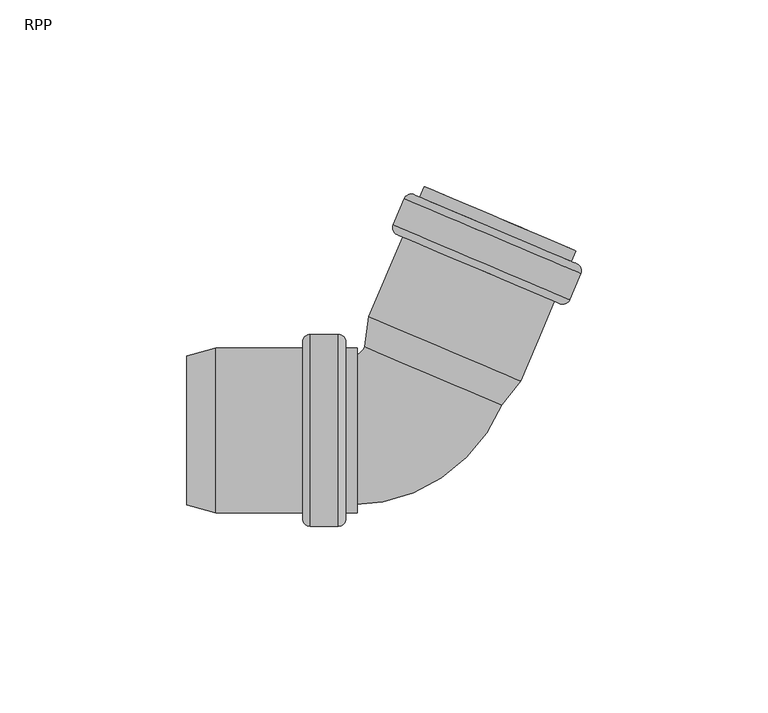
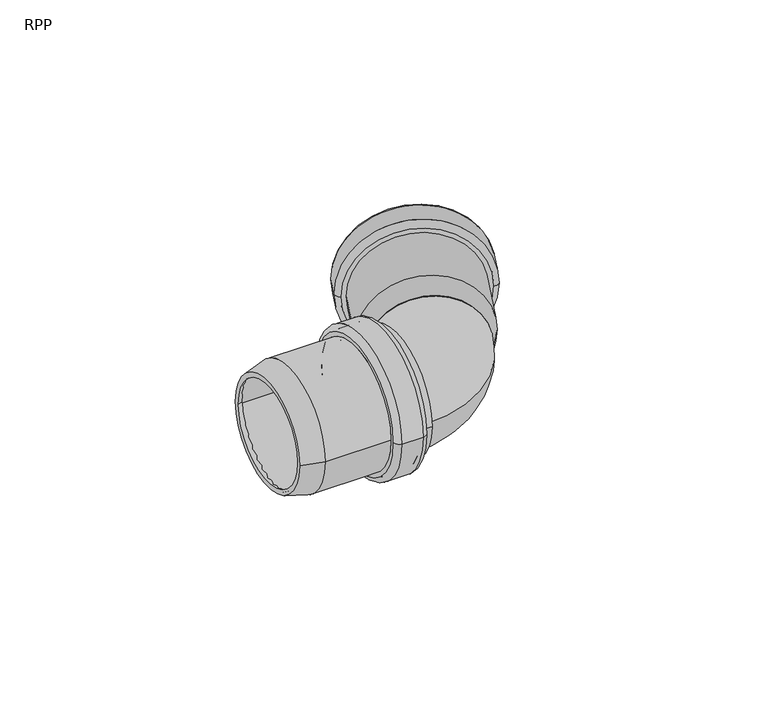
"""IFC4 building model written with IfcOpenShell, lengths in millimetres: pipe fitting geometry, RAUPIANO PLUS Bend : RPP."""

from ifc_helpers import new_model, si_unit, point, frame, origin, place, context, project, spatial, polyline, circle_curve, ellipse_curve, trimmed, source, transform, mapped, element, save
from ifc_brep_helpers import plane_surface, cylinder_surface, revolved_surface, advanced_brep


def rpp_54957289(model_context):
    return source(origin(), model_context, "Body", "AdvancedBrep", [
        advanced_brep(
        [(-26.9852535, -20.3, 0.0), (-26.9852535, 20.3, 0.0), (-51.8109723, 20.3, 0.0), (-51.8109723, -20.3, 0.0), (-26.4852535, -23.9, 0.0), (-26.4852535, 23.9, 0.0), (-26.9852535, 23.4, 0.0), (-26.9852535, -23.4, 0.0), (-19.4852535, -23.9, 0.0), (-19.4852535, 23.9, 0.0), (-18.9852535, -23.4, 0.0), (-18.9852535, 23.4, 0.0), (-14.0852535, -20.3, 0.0), (-14.0852535, 20.3, 0.0), (-18.9852535, 20.3, 0.0), (-18.9852535, -20.3, 0.0), (-17.1852535, -22.1, 0.0), (-17.1852535, 22.1, 0.0), (-14.0852535, 22.1, 0.0), (-14.0852535, -22.1, 0.0), (-19.1852535, -25.7, 0.0), (-19.1852535, 25.7, 0.0), (-17.1852535, 23.7, 0.0), (-17.1852535, -23.7, 0.0), (-26.7852535, -25.7, 0.0), (-26.7852535, 25.7, 0.0), (-28.7852535, -23.7, 0.0), (-28.7852535, 23.7, 0.0), (-52.0479468, -22.1, 0.0), (-52.0479468, 22.1, 0.0), (-28.7852535, 22.1, 0.0), (-28.7852535, -22.1, 0.0), (-59.8852535, -20.0, 0.0), (-59.8852535, 20.0, 0.0), (-59.8852535, 18.1365029, 0.0), (-59.8852535, -18.1365029, 0.0)],
        [
            (0, 1, circle_curve(frame((-26.9852535, 0.0, 0.0), z_axis=(1.0, 0.0, 0.0), x_axis=(0.0, 1.0, 0.0)), 20.3)),
            (1, 2),
            (2, 3, circle_curve(frame((-51.8109723, 0.0, 0.0), z_axis=(-1.0, 0.0, 0.0), x_axis=(0.0, 1.0, 0.0)), 20.3)),
            (3, 0),
            (4, 5, circle_curve(frame((-26.4852535, 0.0, 0.0), z_axis=(1.0, 0.0, 0.0), x_axis=(0.0, 1.0, 0.0)), 23.9)),
            (5, 6, circle_curve(frame((-26.4852535, 23.4, 0.0), z_axis=(0.0, 0.0, 1.0), x_axis=(0.0, -1.0, 0.0)), 0.5)),
            (6, 7, circle_curve(frame((-26.9852535, 0.0, 0.0), z_axis=(-1.0, 0.0, 0.0), x_axis=(0.0, 1.0, 0.0)), 23.4)),
            (7, 4, circle_curve(frame((-26.4852535, -23.4, 0.0), z_axis=(0.0, 0.0, 1.0), x_axis=(0.0, 1.0, 0.0)), 0.5)),
            (8, 9, circle_curve(frame((-19.4852535, 0.0, 0.0), z_axis=(1.0, 0.0, 0.0), x_axis=(0.0, 1.0, 0.0)), 23.9)),
            (9, 5),
            (4, 8),
            (10, 11, circle_curve(frame((-18.9852535, 0.0, 0.0), z_axis=(1.0, 0.0, 0.0), x_axis=(0.0, 1.0, 0.0)), 23.4)),
            (11, 9, circle_curve(frame((-19.4852535, 23.4, 0.0), z_axis=(0.0, 0.0, 1.0), x_axis=(0.0, -1.0, 0.0)), 0.5)),
            (8, 10, circle_curve(frame((-19.4852535, -23.4, 0.0), z_axis=(0.0, 0.0, 1.0), x_axis=(0.0, 1.0, 0.0)), 0.5)),
            (12, 13, circle_curve(frame((-14.0852535, 0.0, 0.0), z_axis=(1.0, 0.0, 0.0), x_axis=(0.0, 1.0, 0.0)), 20.3)),
            (13, 14),
            (14, 15, circle_curve(frame((-18.9852535, 0.0, 0.0), z_axis=(-1.0, 0.0, 0.0), x_axis=(0.0, 1.0, 0.0)), 20.3)),
            (15, 12),
            (16, 17, circle_curve(frame((-17.1852535, 0.0, 0.0), z_axis=(1.0, 0.0, 0.0), x_axis=(0.0, 1.0, 0.0)), 22.1)),
            (17, 18),
            (18, 19, circle_curve(frame((-14.0852535, 0.0, 0.0), z_axis=(-1.0, 0.0, 0.0), x_axis=(0.0, 1.0, 0.0)), 22.1)),
            (19, 16),
            (20, 21, circle_curve(frame((-19.1852535, 0.0, 0.0), z_axis=(1.0, 0.0, 0.0), x_axis=(0.0, 1.0, 0.0)), 25.7)),
            (21, 22, circle_curve(frame((-19.1852535, 23.7, 0.0), z_axis=(0.0, 0.0, -1.0), x_axis=(0.0, -1.0, 0.0)), 2.0)),
            (22, 23, circle_curve(frame((-17.1852535, 0.0, 0.0), z_axis=(-1.0, 0.0, 0.0), x_axis=(0.0, 1.0, 0.0)), 23.7)),
            (23, 20, circle_curve(frame((-19.1852535, -23.7, 0.0), z_axis=(0.0, 0.0, -1.0), x_axis=(0.0, 1.0, 0.0)), 2.0)),
            (24, 25, circle_curve(frame((-26.7852535, 0.0, 0.0), z_axis=(1.0, 0.0, 0.0), x_axis=(0.0, 1.0, 0.0)), 25.7)),
            (25, 21),
            (20, 24),
            (26, 27, circle_curve(frame((-28.7852535, 0.0, 0.0), z_axis=(1.0, 0.0, 0.0), x_axis=(0.0, 1.0, 0.0)), 23.7)),
            (27, 25, circle_curve(frame((-26.7852535, 23.7, 0.0), z_axis=(0.0, 0.0, -1.0), x_axis=(0.0, -1.0, 0.0)), 2.0)),
            (24, 26, circle_curve(frame((-26.7852535, -23.7, 0.0), z_axis=(0.0, 0.0, -1.0), x_axis=(0.0, 1.0, 0.0)), 2.0)),
            (28, 29, circle_curve(frame((-52.0479468, 0.0, 0.0), z_axis=(1.0, 0.0, 0.0), x_axis=(0.0, 1.0, 0.0)), 22.1)),
            (29, 30),
            (30, 31, circle_curve(frame((-28.7852535, 0.0, 0.0), z_axis=(-1.0, 0.0, 0.0), x_axis=(0.0, 1.0, 0.0)), 22.1)),
            (31, 28),
            (32, 33, circle_curve(frame((-59.8852535, 0.0, 0.0), z_axis=(1.0, 0.0, 0.0), x_axis=(0.0, 1.0, 0.0)), 20.0)),
            (33, 29),
            (28, 32),
            (2, 34),
            (34, 35, circle_curve(frame((-59.8852535, 0.0, 0.0), z_axis=(-1.0, 0.0, 0.0), x_axis=(0.0, 1.0, 0.0)), 18.1365029)),
            (35, 3),
            (1, 0, circle_curve(frame((-26.9852535, 0.0, 0.0), z_axis=(1.0, 0.0, 0.0), x_axis=(0.0, -1.0, 0.0)), 20.3)),
            (3, 2, circle_curve(frame((-51.8109723, 0.0, 0.0), z_axis=(-1.0, 0.0, 0.0), x_axis=(0.0, -1.0, 0.0)), 20.3)),
            (6, 7, circle_curve(frame((-26.9852535, 0.0, 0.0), z_axis=(1.0, 0.0, 0.0), x_axis=(0.0, -1.0, 0.0)), 23.4)),
            (5, 4, circle_curve(frame((-26.4852535, 0.0, 0.0), z_axis=(1.0, 0.0, 0.0), x_axis=(0.0, -1.0, 0.0)), 23.9)),
            (9, 8, circle_curve(frame((-19.4852535, 0.0, 0.0), z_axis=(1.0, 0.0, 0.0), x_axis=(0.0, -1.0, 0.0)), 23.9)),
            (11, 10, circle_curve(frame((-18.9852535, 0.0, 0.0), z_axis=(1.0, 0.0, 0.0), x_axis=(0.0, -1.0, 0.0)), 23.4)),
            (14, 15, circle_curve(frame((-18.9852535, 0.0, 0.0), z_axis=(1.0, 0.0, 0.0), x_axis=(0.0, -1.0, 0.0)), 20.3)),
            (13, 12, circle_curve(frame((-14.0852535, 0.0, 0.0), z_axis=(1.0, 0.0, 0.0), x_axis=(0.0, -1.0, 0.0)), 20.3)),
            (18, 19, circle_curve(frame((-14.0852535, 0.0, 0.0), z_axis=(1.0, 0.0, 0.0), x_axis=(0.0, -1.0, 0.0)), 22.1)),
            (17, 16, circle_curve(frame((-17.1852535, 0.0, 0.0), z_axis=(1.0, 0.0, 0.0), x_axis=(0.0, -1.0, 0.0)), 22.1)),
            (22, 23, circle_curve(frame((-17.1852535, 0.0, 0.0), z_axis=(1.0, 0.0, 0.0), x_axis=(0.0, -1.0, 0.0)), 23.7)),
            (21, 20, circle_curve(frame((-19.1852535, 0.0, 0.0), z_axis=(1.0, 0.0, 0.0), x_axis=(0.0, -1.0, 0.0)), 25.7)),
            (25, 24, circle_curve(frame((-26.7852535, 0.0, 0.0), z_axis=(1.0, 0.0, 0.0), x_axis=(0.0, -1.0, 0.0)), 25.7)),
            (27, 26, circle_curve(frame((-28.7852535, 0.0, 0.0), z_axis=(1.0, 0.0, 0.0), x_axis=(0.0, -1.0, 0.0)), 23.7)),
            (30, 31, circle_curve(frame((-28.7852535, 0.0, 0.0), z_axis=(1.0, 0.0, 0.0), x_axis=(0.0, -1.0, 0.0)), 22.1)),
            (29, 28, circle_curve(frame((-52.0479468, 0.0, 0.0), z_axis=(1.0, 0.0, 0.0), x_axis=(0.0, -1.0, 0.0)), 22.1)),
            (33, 32, circle_curve(frame((-59.8852535, 0.0, 0.0), z_axis=(1.0, 0.0, 0.0), x_axis=(0.0, -1.0, 0.0)), 20.0)),
            (34, 35, circle_curve(frame((-59.8852535, 0.0, 0.0), z_axis=(1.0, 0.0, 0.0), x_axis=(0.0, -1.0, 0.0)), 18.1365029)),
        ],
        [
            revolved_surface(polyline([(-51.8109723, 20.3, 0.0), (-26.9852535, 20.3, 0.0)]), (-59.8852535, 0.0, 0.0), (-1.0, 0.0, 0.0)),
            revolved_surface(trimmed(ellipse_curve(frame((-26.4852535, 23.4, 0.0), z_axis=(0.0, 0.0, -1.0), x_axis=(0.0, -1.0, 0.0)), 0.5, 0.5), [point((-26.9852535, 23.4, 0.0))], [point((-26.4852535, 23.9, 0.0))], True, "CARTESIAN"), (-59.8852535, 0.0, 0.0), (-1.0, 0.0, 0.0)),
            revolved_surface(polyline([(-26.4852535, 23.9, 0.0), (-19.4852535, 23.9, 0.0)]), (-59.8852535, 0.0, 0.0), (-1.0, 0.0, 0.0)),
            revolved_surface(trimmed(ellipse_curve(frame((-19.4852535, 23.4, 0.0), z_axis=(0.0, 0.0, -1.0), x_axis=(0.0, -1.0, 0.0)), 0.5, 0.5), [point((-19.4852535, 23.9, 0.0))], [point((-18.9852535, 23.4, 0.0))], True, "CARTESIAN"), (-59.8852535, 0.0, 0.0), (-1.0, 0.0, 0.0)),
            revolved_surface(polyline([(-18.9852535, 20.3, 0.0), (-14.0852535, 20.3, 0.0)]), (-59.8852535, 0.0, 0.0), (-1.0, 0.0, 0.0)),
            cylinder_surface(frame((-59.8852535, 0.0, 0.0), z_axis=(-1.0, 0.0, 0.0), x_axis=(0.0, 1.0, 0.0)), 22.1),
            revolved_surface(trimmed(ellipse_curve(frame((-19.1852535, 23.7, 0.0), z_axis=(0.0, 0.0, 1.0), x_axis=(0.0, -1.0, 0.0)), 2.0, 2.0), [point((-17.1852535, 23.7, 0.0))], [point((-19.1852535, 25.7, 0.0))], True, "CARTESIAN"), (-59.8852535, 0.0, 0.0), (-1.0, 0.0, 0.0)),
            cylinder_surface(frame((-59.8852535, 0.0, 0.0), z_axis=(-1.0, 0.0, 0.0), x_axis=(0.0, 1.0, 0.0)), 25.7),
            revolved_surface(trimmed(ellipse_curve(frame((-26.7852535, 23.7, 0.0), z_axis=(0.0, 0.0, 1.0), x_axis=(0.0, -1.0, 0.0)), 2.0, 2.0), [point((-26.7852535, 25.7, 0.0))], [point((-28.7852535, 23.7, 0.0))], True, "CARTESIAN"), (-59.8852535, 0.0, 0.0), (-1.0, 0.0, 0.0)),
            revolved_surface(polyline([(-52.0479468, 22.1, 0.0), (-59.8852535, 20.0, 0.0)]), (-59.8852535, 0.0, 0.0), (-1.0, 0.0, 0.0)),
            revolved_surface(polyline([(-59.8852535, 18.1365029, 0.0), (-51.8109723, 20.3, 0.0)]), (-59.8852535, 0.0, 0.0), (-1.0, 0.0, 0.0)),
            revolved_surface(polyline([(-51.8109723, -20.3, 0.0), (-26.9852535, -20.3, 0.0)]), (-59.8852535, 0.0, 0.0), (-1.0, 0.0, 0.0)),
            plane_surface(frame((-26.9852535, 0.0, 0.0), z_axis=(1.0, 0.0, 0.0), x_axis=(0.0, -1.0, 0.0))),
            revolved_surface(trimmed(ellipse_curve(frame((-26.4852535, -23.4, 0.0), z_axis=(0.0, 0.0, 1.0), x_axis=(0.0, 1.0, 0.0)), 0.5, 0.5), [point((-26.9852535, -23.4, 0.0))], [point((-26.4852535, -23.9, 0.0))], True, "CARTESIAN"), (-59.8852535, 0.0, 0.0), (-1.0, 0.0, 0.0)),
            revolved_surface(polyline([(-26.4852535, -23.9, 0.0), (-19.4852535, -23.9, 0.0)]), (-59.8852535, 0.0, 0.0), (-1.0, 0.0, 0.0)),
            revolved_surface(trimmed(ellipse_curve(frame((-19.4852535, -23.4, 0.0), z_axis=(0.0, 0.0, 1.0), x_axis=(0.0, 1.0, 0.0)), 0.5, 0.5), [point((-19.4852535, -23.9, 0.0))], [point((-18.9852535, -23.4, 0.0))], True, "CARTESIAN"), (-59.8852535, 0.0, 0.0), (-1.0, 0.0, 0.0)),
            plane_surface(frame((-18.9852535, 0.0, 0.0), z_axis=(-1.0, 0.0, 0.0), x_axis=(0.0, -1.0, 0.0))),
            revolved_surface(polyline([(-18.9852535, -20.3, 0.0), (-14.0852535, -20.3, 0.0)]), (-59.8852535, 0.0, 0.0), (-1.0, 0.0, 0.0)),
            plane_surface(frame((-14.0852535, 0.0, 0.0), z_axis=(1.0, 0.0, 0.0), x_axis=(0.0, -1.0, 0.0))),
            cylinder_surface(frame((-59.8852535, 0.0, 0.0), z_axis=(-1.0, 0.0, 0.0), x_axis=(0.0, -1.0, 0.0)), 22.1),
            plane_surface(frame((-17.1852535, 0.0, 0.0), z_axis=(1.0, 0.0, 0.0), x_axis=(0.0, -1.0, 0.0))),
            revolved_surface(trimmed(ellipse_curve(frame((-19.1852535, -23.7, 0.0), z_axis=(0.0, 0.0, -1.0), x_axis=(0.0, 1.0, 0.0)), 2.0, 2.0), [point((-17.1852535, -23.7, 0.0))], [point((-19.1852535, -25.7, 0.0))], True, "CARTESIAN"), (-59.8852535, 0.0, 0.0), (-1.0, 0.0, 0.0)),
            cylinder_surface(frame((-59.8852535, 0.0, 0.0), z_axis=(-1.0, 0.0, 0.0), x_axis=(0.0, -1.0, 0.0)), 25.7),
            revolved_surface(trimmed(ellipse_curve(frame((-26.7852535, -23.7, 0.0), z_axis=(0.0, 0.0, -1.0), x_axis=(0.0, 1.0, 0.0)), 2.0, 2.0), [point((-26.7852535, -25.7, 0.0))], [point((-28.7852535, -23.7, 0.0))], True, "CARTESIAN"), (-59.8852535, 0.0, 0.0), (-1.0, 0.0, 0.0)),
            plane_surface(frame((-28.7852535, 0.0, 0.0), z_axis=(-1.0, 0.0, 0.0), x_axis=(0.0, -1.0, 0.0))),
            revolved_surface(polyline([(-52.0479468, -22.1, 0.0), (-59.8852535, -20.0, 0.0)]), (-59.8852535, 0.0, 0.0), (-1.0, 0.0, 0.0)),
            plane_surface(frame((-59.8852535, 0.0, 0.0), z_axis=(-1.0, 0.0, 0.0), x_axis=(0.0, -1.0, 0.0))),
            revolved_surface(polyline([(-59.8852535, -18.1365029, 0.0), (-51.8109723, -20.3, 0.0)]), (-59.8852535, 0.0, 0.0), (-1.0, 0.0, 0.0)),
        ],
        [
            (0, [[1, 2, 3, 4]]),
            (1, [[5, 6, 7, 8]]),
            (2, [[9, 10, -5, 11]]),
            (3, [[12, 13, -9, 14]]),
            (4, [[15, 16, 17, 18]]),
            (5, [[19, 20, 21, 22]]),
            (6, [[23, 24, 25, 26]]),
            (7, [[27, 28, -23, 29]]),
            (8, [[30, 31, -27, 32]]),
            (5, [[33, 34, 35, 36]]),
            (9, [[37, 38, -33, 39]]),
            (10, [[-3, 40, 41, 42]]),
            (11, [[43, -4, 44, -2]]),
            (12, [[45, -7], [-43, -1]]),
            (13, [[46, -8, -45, -6]]),
            (14, [[47, -11, -46, -10]]),
            (15, [[48, -14, -47, -13]]),
            (16, [[-48, -12], [49, -17]]),
            (17, [[50, -18, -49, -16]]),
            (18, [[51, -21], [-50, -15]]),
            (19, [[52, -22, -51, -20]]),
            (20, [[53, -25], [-52, -19]]),
            (21, [[54, -26, -53, -24]]),
            (22, [[55, -29, -54, -28]]),
            (23, [[56, -32, -55, -31]]),
            (24, [[-56, -30], [57, -35]]),
            (19, [[58, -36, -57, -34]]),
            (25, [[59, -39, -58, -38]]),
            (26, [[-59, -37], [60, -41]]),
            (27, [[-44, -42, -60, -40]]),
        ],
    ),
        advanced_brep(
        [(22.9016019, 7.5359567, 0.0), (-10.4878759, 21.7089492, 0.0), (-9.3245125, 29.9867098, 0.0), (28.0479845, 14.123026, 0.0), (29.6123, 13.2015738, 0.0), (-11.0740146, 30.4718897, 0.0), (-12.2032341, 22.4370755, 0.0), (24.6169601, 6.8078303, 0.0), (38.7017584, 34.6149959, 0.0), (-1.9845562, 51.8853118, 0.0), (45.7665947, 42.0452104, 0.0), (-1.5473548, 62.1287905, 0.0), (-4.5169114, 55.1329536, 0.0), (42.7970381, 35.0493736, 0.0), (44.445506, 48.1464173, 0.0), (3.7591914, 65.4167331, 0.0), (2.5479249, 62.5631681, 0.0), (43.2342395, 45.2928522, 0.0), (40.8740147, 44.3392595, 0.0), (3.5015176, 60.2029433, 0.0), (5.4161002, 64.7134171, 0.0), (42.7885972, 48.8497333, 0.0), (41.2573487, 36.0288411, 0.0), (-2.7427833, 54.705789, 0.0), (-0.0076654, 61.149323, 0.0), (43.9924666, 42.472375, 0.0), (0.3756686, 52.8389045, 0.0), (37.7481657, 36.9752207, 0.0), (-3.4573639, 52.5104816, 0.0), (40.1745661, 33.9898261, 0.0), (44.7070472, 44.6676824, 0.0), (1.0751172, 63.1883379, 0.0), (0.6479526, 61.4142098, 0.0), (43.7275797, 43.127993, 0.0), (40.6017307, 35.7639542, 0.0), (-2.4778964, 54.050171, 0.0)],
        [
            (0, 1, circle_curve(frame((6.206863, 14.6224529, 0.0), z_axis=(-0.39073112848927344, -0.9205048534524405, 0.0), x_axis=(-0.9205048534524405, 0.39073112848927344, 0.0)), 18.1365029)),
            (1, 2),
            (2, 3, circle_curve(frame((9.361736, 22.0548679, 0.0), z_axis=(0.39073112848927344, 0.9205048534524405, 0.0), x_axis=(-0.9205048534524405, 0.39073112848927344, 0.0)), 20.3)),
            (3, 0),
            (4, 5, circle_curve(frame((9.2691427, 21.8367318, 0.0), z_axis=(-0.39073112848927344, -0.9205048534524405, 0.0), x_axis=(-0.9205048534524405, 0.39073112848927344, 0.0)), 22.1)),
            (5, 6),
            (6, 7, circle_curve(frame((6.206863, 14.6224529, 0.0), z_axis=(0.39073112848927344, 0.9205048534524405, 0.0), x_axis=(-0.9205048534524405, 0.39073112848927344, 0.0)), 20.0)),
            (7, 4),
            (8, 9, circle_curve(frame((18.3586011, 43.2501539, 0.0), z_axis=(-0.39073112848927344, -0.9205048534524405, 0.0), x_axis=(-0.9205048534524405, 0.39073112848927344, 0.0)), 22.1)),
            (9, 5),
            (4, 8),
            (10, 11, circle_curve(frame((22.1096199, 52.0870005, 0.0), z_axis=(-0.39073112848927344, -0.9205048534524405, 0.0), x_axis=(-0.9205048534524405, 0.39073112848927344, 0.0)), 25.7)),
            (11, 12),
            (12, 13, circle_curve(frame((19.1400634, 45.0911636, 0.0), z_axis=(0.39073112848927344, 0.9205048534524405, 0.0), x_axis=(-0.9205048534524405, 0.39073112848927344, 0.0)), 25.7)),
            (13, 10),
            (14, 15, circle_curve(frame((24.1023487, 56.7815752, 0.0), z_axis=(-0.39073112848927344, -0.9205048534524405, 0.0), x_axis=(-0.9205048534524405, 0.39073112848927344, 0.0)), 22.1)),
            (15, 16),
            (16, 17, circle_curve(frame((22.8910822, 53.9280102, 0.0), z_axis=(0.39073112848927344, 0.9205048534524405, 0.0), x_axis=(-0.9205048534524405, 0.39073112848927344, 0.0)), 22.1)),
            (17, 14),
            (18, 19, circle_curve(frame((22.1877662, 52.2711014, 0.0), z_axis=(-0.39073112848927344, -0.9205048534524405, 0.0), x_axis=(-0.9205048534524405, 0.39073112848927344, 0.0)), 20.3)),
            (19, 20),
            (20, 21, circle_curve(frame((24.1023487, 56.7815752, 0.0), z_axis=(0.39073112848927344, 0.9205048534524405, 0.0), x_axis=(-0.9205048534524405, 0.39073112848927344, 0.0)), 20.3)),
            (21, 18),
            (22, 23, circle_curve(frame((19.2572827, 45.367315, 0.0), z_axis=(-0.39073112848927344, -0.9205048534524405, 0.0), x_axis=(-0.9205048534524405, 0.39073112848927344, 0.0)), 23.9)),
            (23, 24),
            (24, 25, circle_curve(frame((21.9924006, 51.810849, 0.0), z_axis=(0.39073112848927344, 0.9205048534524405, 0.0), x_axis=(-0.9205048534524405, 0.39073112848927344, 0.0)), 23.9)),
            (25, 22),
            (2, 26),
            (26, 27, circle_curve(frame((19.0619171, 44.9070626, 0.0), z_axis=(0.39073112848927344, 0.9205048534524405, 0.0), x_axis=(-0.9205048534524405, 0.39073112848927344, 0.0)), 20.3)),
            (27, 3),
            (1, 0, circle_curve(frame((6.206863, 14.6224529, 0.0), z_axis=(-0.39073112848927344, -0.9205048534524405, 0.0), x_axis=(0.9205048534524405, -0.39073112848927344, 0.0)), 18.1365029)),
            (3, 2, circle_curve(frame((9.361736, 22.0548679, 0.0), z_axis=(0.39073112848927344, 0.9205048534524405, 0.0), x_axis=(0.9205048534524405, -0.39073112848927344, 0.0)), 20.3)),
            (6, 7, circle_curve(frame((6.206863, 14.6224529, 0.0), z_axis=(-0.39073112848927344, -0.9205048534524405, 0.0), x_axis=(0.9205048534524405, -0.39073112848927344, 0.0)), 20.0)),
            (5, 4, circle_curve(frame((9.2691427, 21.8367318, 0.0), z_axis=(-0.39073112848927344, -0.9205048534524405, 0.0), x_axis=(0.9205048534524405, -0.39073112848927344, 0.0)), 22.1)),
            (9, 8, circle_curve(frame((18.3586011, 43.2501539, 0.0), z_axis=(-0.39073112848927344, -0.9205048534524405, 0.0), x_axis=(0.9205048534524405, -0.39073112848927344, 0.0)), 22.1)),
            (28, 29, circle_curve(frame((18.3586011, 43.2501539, 0.0), z_axis=(-0.39073112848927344, -0.9205048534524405, 0.0), x_axis=(0.9205048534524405, -0.39073112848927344, 0.0)), 23.7)),
            (29, 28, circle_curve(frame((18.3586011, 43.2501539, 0.0), z_axis=(-0.39073112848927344, -0.9205048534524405, 0.0), x_axis=(-0.9205048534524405, 0.39073112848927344, 0.0)), 23.7)),
            (11, 10, circle_curve(frame((22.1096199, 52.0870005, 0.0), z_axis=(-0.39073112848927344, -0.9205048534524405, 0.0), x_axis=(0.9205048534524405, -0.39073112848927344, 0.0)), 25.7)),
            (13, 12, circle_curve(frame((19.1400634, 45.0911636, 0.0), z_axis=(0.39073112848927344, 0.9205048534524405, 0.0), x_axis=(0.9205048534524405, -0.39073112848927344, 0.0)), 25.7)),
            (30, 31, circle_curve(frame((22.8910822, 53.9280102, 0.0), z_axis=(0.39073112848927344, 0.9205048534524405, 0.0), x_axis=(0.9205048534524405, -0.39073112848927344, 0.0)), 23.7)),
            (31, 30, circle_curve(frame((22.8910822, 53.9280102, 0.0), z_axis=(0.39073112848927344, 0.9205048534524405, 0.0), x_axis=(-0.9205048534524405, 0.39073112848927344, 0.0)), 23.7)),
            (16, 17, circle_curve(frame((22.8910822, 53.9280102, 0.0), z_axis=(-0.39073112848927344, -0.9205048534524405, 0.0), x_axis=(0.9205048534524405, -0.39073112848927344, 0.0)), 22.1)),
            (15, 14, circle_curve(frame((24.1023487, 56.7815752, 0.0), z_axis=(-0.39073112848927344, -0.9205048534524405, 0.0), x_axis=(0.9205048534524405, -0.39073112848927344, 0.0)), 22.1)),
            (20, 21, circle_curve(frame((24.1023487, 56.7815752, 0.0), z_axis=(-0.39073112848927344, -0.9205048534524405, 0.0), x_axis=(0.9205048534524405, -0.39073112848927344, 0.0)), 20.3)),
            (19, 18, circle_curve(frame((22.1877662, 52.2711014, 0.0), z_axis=(-0.39073112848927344, -0.9205048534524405, 0.0), x_axis=(0.9205048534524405, -0.39073112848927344, 0.0)), 20.3)),
            (32, 33, circle_curve(frame((22.1877662, 52.2711014, 0.0), z_axis=(-0.39073112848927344, -0.9205048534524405, 0.0), x_axis=(0.9205048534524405, -0.39073112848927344, 0.0)), 23.4)),
            (33, 32, circle_curve(frame((22.1877662, 52.2711014, 0.0), z_axis=(-0.39073112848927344, -0.9205048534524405, 0.0), x_axis=(-0.9205048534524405, 0.39073112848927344, 0.0)), 23.4)),
            (23, 22, circle_curve(frame((19.2572827, 45.367315, 0.0), z_axis=(-0.39073112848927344, -0.9205048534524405, 0.0), x_axis=(0.9205048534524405, -0.39073112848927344, 0.0)), 23.9)),
            (25, 24, circle_curve(frame((21.9924006, 51.810849, 0.0), z_axis=(0.39073112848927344, 0.9205048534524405, 0.0), x_axis=(0.9205048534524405, -0.39073112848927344, 0.0)), 23.9)),
            (34, 35, circle_curve(frame((19.0619171, 44.9070626, 0.0), z_axis=(0.39073112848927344, 0.9205048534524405, 0.0), x_axis=(0.9205048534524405, -0.39073112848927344, 0.0)), 23.4)),
            (35, 34, circle_curve(frame((19.0619171, 44.9070626, 0.0), z_axis=(0.39073112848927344, 0.9205048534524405, 0.0), x_axis=(-0.9205048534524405, 0.39073112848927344, 0.0)), 23.4)),
            (26, 27, circle_curve(frame((19.0619171, 44.9070626, 0.0), z_axis=(-0.39073112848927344, -0.9205048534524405, 0.0), x_axis=(0.9205048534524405, -0.39073112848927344, 0.0)), 20.3)),
            (12, 28, circle_curve(frame((-2.6759017, 54.3514913, 0.0), z_axis=(0.0, 0.0, 1.0), x_axis=(0.9205048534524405, -0.39073112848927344, 0.0)), 2.0)),
            (29, 13, circle_curve(frame((40.9560284, 35.8308358, 0.0), z_axis=(0.0, 0.0, 1.0), x_axis=(-0.9205048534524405, 0.39073112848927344, 0.0)), 2.0)),
            (31, 11, circle_curve(frame((0.2936549, 61.3473282, 0.0), z_axis=(0.0, 0.0, 1.0), x_axis=(0.9205048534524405, -0.39073112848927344, 0.0)), 2.0)),
            (10, 30, circle_curve(frame((43.925585, 42.8266727, 0.0), z_axis=(0.0, 0.0, 1.0), x_axis=(-0.9205048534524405, 0.39073112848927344, 0.0)), 2.0)),
            (24, 32, circle_curve(frame((0.452587, 60.9539574, 0.0), z_axis=(0.0, 0.0, -1.0), x_axis=(0.9205048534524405, -0.39073112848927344, 0.0)), 0.5)),
            (33, 25, circle_curve(frame((43.5322142, 42.6677406, 0.0), z_axis=(0.0, 0.0, -1.0), x_axis=(-0.9205048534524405, 0.39073112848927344, 0.0)), 0.5)),
            (35, 23, circle_curve(frame((-2.2825309, 54.5104234, 0.0), z_axis=(0.0, 0.0, -1.0), x_axis=(0.9205048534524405, -0.39073112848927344, 0.0)), 0.5)),
            (22, 34, circle_curve(frame((40.7970963, 36.2242066, 0.0), z_axis=(0.0, 0.0, -1.0), x_axis=(-0.9205048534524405, 0.39073112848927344, 0.0)), 0.5)),
        ],
        [
            revolved_surface(polyline([(-9.3245125, 29.9867098, 0.0), (-10.4878759, 21.7089492, 0.0)]), (6.206863, 14.6224529, 0.0), (0.39073112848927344, 0.9205048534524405, 0.0)),
            revolved_surface(polyline([(-12.2032341, 22.4370755, 0.0), (-11.0740146, 30.4718897, 0.0)]), (6.206863, 14.6224529, 0.0), (0.39073112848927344, 0.9205048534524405, 0.0)),
            cylinder_surface(frame((6.206863, 14.6224529, 0.0), z_axis=(0.39073112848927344, 0.9205048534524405, 0.0), x_axis=(-0.9205048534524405, 0.39073112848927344, 0.0)), 22.1),
            cylinder_surface(frame((6.206863, 14.6224529, 0.0), z_axis=(0.39073112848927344, 0.9205048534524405, 0.0), x_axis=(-0.9205048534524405, 0.39073112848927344, 0.0)), 25.7),
            revolved_surface(polyline([(5.416100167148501, 64.71341711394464, 0.0), (3.5015176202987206, 60.202943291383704, 0.0)]), (6.206863, 14.6224529, 0.0), (0.39073112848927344, 0.9205048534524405, 0.0)),
            revolved_surface(polyline([(-0.007665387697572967, 61.14932299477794, 0.0), (-2.742783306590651, 54.70578897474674, 0.0)]), (6.206863, 14.6224529, 0.0), (0.39073112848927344, 0.9205048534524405, 0.0)),
            revolved_surface(polyline([(0.37566862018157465, 52.8389045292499, 0.0), (-9.32451253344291, 29.986709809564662, 0.0)]), (6.206863, 14.6224529, 0.0), (0.39073112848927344, 0.9205048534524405, 0.0)),
            revolved_surface(polyline([(28.0479845, 14.123026, 0.0), (22.9016019, 7.5359567, 0.0)]), (6.206863, 14.6224529, 0.0), (0.39073112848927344, 0.9205048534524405, 0.0)),
            plane_surface(frame((6.206863, 14.6224529, 0.0), z_axis=(-0.39073112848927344, -0.9205048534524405, 0.0), x_axis=(0.9205048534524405, -0.39073112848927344, 0.0))),
            revolved_surface(polyline([(24.6169601, 6.8078303, 0.0), (29.6123, 13.2015738, 0.0)]), (6.206863, 14.6224529, 0.0), (0.39073112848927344, 0.9205048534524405, 0.0)),
            cylinder_surface(frame((6.206863, 14.6224529, 0.0), z_axis=(0.39073112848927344, 0.9205048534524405, 0.0), x_axis=(0.9205048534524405, -0.39073112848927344, 0.0)), 22.1),
            plane_surface(frame((18.3586011, 43.2501539, 0.0), z_axis=(-0.39073112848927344, -0.9205048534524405, 0.0), x_axis=(0.9205048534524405, -0.39073112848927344, 0.0))),
            cylinder_surface(frame((6.206863, 14.6224529, 0.0), z_axis=(0.39073112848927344, 0.9205048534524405, 0.0), x_axis=(0.9205048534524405, -0.39073112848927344, 0.0)), 25.7),
            plane_surface(frame((22.8910822, 53.9280102, 0.0), z_axis=(0.39073112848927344, 0.9205048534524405, 0.0), x_axis=(0.9205048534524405, -0.39073112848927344, 0.0))),
            plane_surface(frame((24.1023487, 56.7815752, 0.0), z_axis=(0.39073112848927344, 0.9205048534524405, 0.0), x_axis=(0.9205048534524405, -0.39073112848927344, 0.0))),
            revolved_surface(polyline([(42.78859721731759, 48.84973329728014, 0.0), (40.87401467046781, 44.3392594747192, 0.0)]), (6.206863, 14.6224529, 0.0), (0.39073112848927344, 0.9205048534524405, 0.0)),
            plane_surface(frame((22.1877662, 52.2711014, 0.0), z_axis=(-0.39073112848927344, -0.9205048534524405, 0.0), x_axis=(0.9205048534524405, -0.39073112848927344, 0.0))),
            revolved_surface(polyline([(43.99246660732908, 42.47237505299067, 0.0), (41.257348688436, 36.02884103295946, 0.0)]), (6.206863, 14.6224529, 0.0), (0.39073112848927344, 0.9205048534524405, 0.0)),
            plane_surface(frame((19.0619171, 44.9070626, 0.0), z_axis=(0.39073112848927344, 0.9205048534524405, 0.0), x_axis=(0.9205048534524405, -0.39073112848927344, 0.0))),
            revolved_surface(polyline([(37.74816567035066, 36.975220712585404, 0.0), (28.047984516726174, 14.12302599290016, 0.0)]), (6.206863, 14.6224529, 0.0), (0.39073112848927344, 0.9205048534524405, 0.0)),
            revolved_surface(trimmed(ellipse_curve(frame((-2.6759017, 54.3514913, 0.0), z_axis=(0.0, 0.0, -1.0), x_axis=(0.9205048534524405, -0.39073112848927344, 0.0)), 2.0, 2.0), [point((-3.4573639, 52.5104816, 0.0))], [point((-4.5169114, 55.1329536, 0.0))], True, "CARTESIAN"), (6.206863, 14.6224529, 0.0), (0.39073112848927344, 0.9205048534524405, 0.0)),
            revolved_surface(trimmed(ellipse_curve(frame((0.2936549, 61.3473282, 0.0), z_axis=(0.0, 0.0, -1.0), x_axis=(0.9205048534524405, -0.39073112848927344, 0.0)), 2.0, 2.0), [point((-1.5473548, 62.1287905, 0.0))], [point((1.0751172, 63.1883379, 0.0))], True, "CARTESIAN"), (6.206863, 14.6224529, 0.0), (0.39073112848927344, 0.9205048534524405, 0.0)),
            revolved_surface(trimmed(ellipse_curve(frame((0.452587, 60.9539574, 0.0), z_axis=(0.0, 0.0, 1.0), x_axis=(0.9205048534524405, -0.39073112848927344, 0.0)), 0.5, 0.5), [point((0.6479526, 61.4142098, 0.0))], [point((-0.0076654, 61.149323, 0.0))], True, "CARTESIAN"), (6.206863, 14.6224529, 0.0), (0.39073112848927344, 0.9205048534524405, 0.0)),
            revolved_surface(trimmed(ellipse_curve(frame((-2.2825309, 54.5104234, 0.0), z_axis=(0.0, 0.0, 1.0), x_axis=(0.9205048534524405, -0.39073112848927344, 0.0)), 0.5, 0.5), [point((-2.7427833, 54.705789, 0.0))], [point((-2.4778964, 54.050171, 0.0))], True, "CARTESIAN"), (6.206863, 14.6224529, 0.0), (0.39073112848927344, 0.9205048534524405, 0.0)),
            revolved_surface(trimmed(ellipse_curve(frame((40.9560284, 35.8308358, 0.0), z_axis=(0.0, 0.0, 1.0), x_axis=(-0.9205048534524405, 0.3907311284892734, 0.0)), 2.0, 2.0), [point((40.1745661, 33.9898261, 0.0))], [point((42.7970381, 35.0493736, 0.0))], True, "CARTESIAN"), (6.206863, 14.6224529, 0.0), (0.39073112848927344, 0.9205048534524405, 0.0)),
            revolved_surface(trimmed(ellipse_curve(frame((43.925585, 42.8266727, 0.0), z_axis=(0.0, 0.0, 1.0), x_axis=(-0.9205048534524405, 0.3907311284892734, 0.0)), 2.0, 2.0), [point((45.7665947, 42.0452104, 0.0))], [point((44.7070472, 44.6676824, 0.0))], True, "CARTESIAN"), (6.206863, 14.6224529, 0.0), (0.39073112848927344, 0.9205048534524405, 0.0)),
            revolved_surface(trimmed(ellipse_curve(frame((43.5322142, 42.6677406, 0.0), z_axis=(0.0, 0.0, -1.0), x_axis=(-0.9205048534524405, 0.3907311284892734, 0.0)), 0.5, 0.5), [point((43.7275797, 43.127993, 0.0))], [point((43.9924666, 42.472375, 0.0))], True, "CARTESIAN"), (6.206863, 14.6224529, 0.0), (0.39073112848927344, 0.9205048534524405, 0.0)),
            revolved_surface(trimmed(ellipse_curve(frame((40.7970963, 36.2242066, 0.0), z_axis=(0.0, 0.0, -1.0), x_axis=(-0.9205048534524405, 0.3907311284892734, 0.0)), 0.5, 0.5), [point((41.2573487, 36.0288411, 0.0))], [point((40.6017307, 35.7639542, 0.0))], True, "CARTESIAN"), (6.206863, 14.6224529, 0.0), (0.39073112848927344, 0.9205048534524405, 0.0)),
        ],
        [
            (0, [[1, 2, 3, 4]]),
            (1, [[5, 6, 7, 8]]),
            (2, [[9, 10, -5, 11]]),
            (3, [[12, 13, 14, 15]]),
            (2, [[16, 17, 18, 19]]),
            (4, [[20, 21, 22, 23]]),
            (5, [[24, 25, 26, 27]]),
            (6, [[-3, 28, 29, 30]]),
            (7, [[31, -4, 32, -2]]),
            (8, [[33, -7], [-31, -1]]),
            (9, [[34, -8, -33, -6]]),
            (10, [[35, -11, -34, -10]]),
            (11, [[36, 37], [-35, -9]]),
            (12, [[38, -15, 39, -13]]),
            (13, [[40, 41], [42, -18]]),
            (10, [[43, -19, -42, -17]]),
            (14, [[-43, -16], [44, -22]]),
            (15, [[45, -23, -44, -21]]),
            (16, [[46, 47], [-45, -20]]),
            (17, [[48, -27, 49, -25]]),
            (18, [[50, 51], [52, -29]]),
            (19, [[-32, -30, -52, -28]]),
            (20, [[-14, 53, -37, 54]]),
            (21, [[-41, 55, -12, 56]]),
            (22, [[-26, 57, -47, 58]]),
            (23, [[-51, 59, -24, 60]]),
            (24, [[-39, -54, -36, -53]]),
            (25, [[-40, -56, -38, -55]]),
            (26, [[-49, -58, -46, -57]]),
            (27, [[-50, -60, -48, -59]]),
        ],
    ),
        advanced_brep(
        [(-15.8852535, 18.2, 0.0), (-15.8852535, -18.2, 0.0), (-59.8852535, -18.2, 0.0), (-59.8852535, 18.2, 0.0), (-56.1532027, 20.0, 0.0), (-56.1532027, -20.0, 0.0), (-15.8852535, -20.0, 0.0), (-15.8852535, 20.0, 0.0), (-59.8852535, 19.0, 0.0), (-59.8852535, -19.0, 0.0)],
        [
            (0, 1, circle_curve(frame((-15.8852535, 0.0, 0.0), z_axis=(1.0, 0.0, 0.0), x_axis=(0.0, -1.0, 0.0)), 18.2)),
            (1, 2),
            (2, 3, circle_curve(frame((-59.8852535, 0.0, 0.0), z_axis=(-1.0, 0.0, 0.0), x_axis=(0.0, -1.0, 0.0)), 18.2)),
            (3, 0),
            (4, 5, circle_curve(frame((-56.1532027, 0.0, 0.0), z_axis=(1.0, 0.0, 0.0), x_axis=(0.0, -1.0, 0.0)), 20.0)),
            (5, 6),
            (6, 7, circle_curve(frame((-15.8852535, 0.0, 0.0), z_axis=(-1.0, 0.0, 0.0), x_axis=(0.0, -1.0, 0.0)), 20.0)),
            (7, 4),
            (8, 9, circle_curve(frame((-59.8852535, 0.0, 0.0), z_axis=(1.0, 0.0, 0.0), x_axis=(0.0, -1.0, 0.0)), 19.0)),
            (9, 5),
            (4, 8),
            (1, 0, circle_curve(frame((-15.8852535, 0.0, 0.0), z_axis=(1.0, 0.0, 0.0), x_axis=(0.0, 1.0, 0.0)), 18.2)),
            (3, 2, circle_curve(frame((-59.8852535, 0.0, 0.0), z_axis=(-1.0, 0.0, 0.0), x_axis=(0.0, 1.0, 0.0)), 18.2)),
            (6, 7, circle_curve(frame((-15.8852535, 0.0, 0.0), z_axis=(1.0, 0.0, 0.0), x_axis=(0.0, 1.0, 0.0)), 20.0)),
            (5, 4, circle_curve(frame((-56.1532027, 0.0, 0.0), z_axis=(1.0, 0.0, 0.0), x_axis=(0.0, 1.0, 0.0)), 20.0)),
            (9, 8, circle_curve(frame((-59.8852535, 0.0, 0.0), z_axis=(1.0, 0.0, 0.0), x_axis=(0.0, 1.0, 0.0)), 19.0)),
        ],
        [
            revolved_surface(polyline([(-59.8852535, -18.2, 0.0), (-15.8852535, -18.2, 0.0)]), (-15.8852535, 0.0, 0.0), (-1.0, 0.0, 0.0)),
            cylinder_surface(frame((-15.8852535, 0.0, 0.0), z_axis=(-1.0, 0.0, 0.0), x_axis=(0.0, -1.0, 0.0)), 20.0),
            revolved_surface(polyline([(-56.1532027, -20.0, 0.0), (-59.8852535, -19.0, 0.0)]), (-15.8852535, 0.0, 0.0), (-1.0, 0.0, 0.0)),
            revolved_surface(polyline([(-59.8852535, 18.2, 0.0), (-15.8852535, 18.2, 0.0)]), (-15.8852535, 0.0, 0.0), (-1.0, 0.0, 0.0)),
            plane_surface(frame((-15.8852535, 0.0, 0.0), z_axis=(1.0, 0.0, 0.0), x_axis=(0.0, 1.0, 0.0))),
            cylinder_surface(frame((-15.8852535, 0.0, 0.0), z_axis=(-1.0, 0.0, 0.0), x_axis=(0.0, 1.0, 0.0)), 20.0),
            revolved_surface(polyline([(-56.1532027, 20.0, 0.0), (-59.8852535, 19.0, 0.0)]), (-15.8852535, 0.0, 0.0), (-1.0, 0.0, 0.0)),
            plane_surface(frame((-59.8852535, 0.0, 0.0), z_axis=(-1.0, 0.0, 0.0), x_axis=(0.0, 1.0, 0.0))),
        ],
        [
            (0, [[1, 2, 3, 4]]),
            (1, [[5, 6, 7, 8]]),
            (2, [[9, 10, -5, 11]]),
            (3, [[12, -4, 13, -2]]),
            (4, [[14, -7], [-12, -1]]),
            (5, [[15, -8, -14, -6]]),
            (6, [[16, -11, -15, -10]]),
            (7, [[-16, -9], [-13, -3]]),
        ],
    ),
        advanced_brep(
        [(-15.8852535, -20.0, 0.0), (-15.8852535, 20.0, 0.0), (-15.8852535, -18.2, 0.0), (-15.8852535, 18.2, 0.0), (24.6169601, 6.8078303, 0.0), (-12.2032341, 22.4370755, 0.0), (22.9600513, 7.5111464, 0.0), (-10.5463253, 21.7337595, 0.0)],
        [
            (0, 1, circle_curve(frame((-15.8852535, 0.0, 0.0), z_axis=(-1.0, 0.0, 0.0), x_axis=(0.0, 1.0, 0.0)), 20.0)),
            (1, 0, circle_curve(frame((-15.8852535, 0.0, 0.0), z_axis=(-1.0, 0.0, 0.0), x_axis=(0.0, 1.0, 0.0)), 20.0)),
            (2, 3, circle_curve(frame((-15.8852535, 0.0, 0.0), z_axis=(1.0, 0.0, 0.0), x_axis=(0.0, 1.0, 0.0)), 18.2)),
            (3, 2, circle_curve(frame((-15.8852535, 0.0, 0.0), z_axis=(1.0, 0.0, 0.0), x_axis=(0.0, 1.0, 0.0)), 18.2)),
            (4, 5, circle_curve(frame((6.206863, 14.6224529, 0.0), z_axis=(0.3907311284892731, 0.9205048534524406, 0.0), x_axis=(-0.9205048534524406, 0.3907311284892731, 0.0)), 20.0)),
            (5, 4, circle_curve(frame((6.206863, 14.6224529, 0.0), z_axis=(0.3907311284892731, 0.9205048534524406, 0.0), x_axis=(-0.9205048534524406, 0.3907311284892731, 0.0)), 20.0)),
            (6, 7, circle_curve(frame((6.206863, 14.6224529, 0.0), z_axis=(-0.3907311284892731, -0.9205048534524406, 0.0), x_axis=(-0.9205048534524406, 0.3907311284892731, 0.0)), 18.2)),
            (7, 6, circle_curve(frame((6.206863, 14.6224529, 0.0), z_axis=(-0.3907311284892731, -0.9205048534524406, 0.0), x_axis=(-0.9205048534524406, 0.3907311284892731, 0.0)), 18.2)),
            (7, 3, circle_curve(frame((-15.8852535, 24.0, 0.0), z_axis=(0.0, 0.0, -1.0), x_axis=(0.0, -1.0, 0.0)), 5.8)),
            (2, 6, circle_curve(frame((-15.8852535, 24.0, 0.0), z_axis=(0.0, 0.0, 1.0), x_axis=(0.0, -1.0, 0.0)), 42.2)),
            (5, 1, circle_curve(frame((-15.8852535, 24.0, 0.0), z_axis=(0.0, 0.0, -1.0), x_axis=(0.0, -1.0, 0.0)), 4.0)),
            (0, 4, circle_curve(frame((-15.8852535, 24.0, 0.0), z_axis=(0.0, 0.0, 1.0), x_axis=(0.0, -1.0, 0.0)), 44.0)),
        ],
        [
            plane_surface(frame((-15.8852535, 0.0, 0.0), z_axis=(-1.0, 0.0, 0.0), x_axis=(0.0, 0.0, 1.0))),
            plane_surface(frame((6.206863, 14.6224529, 0.0), z_axis=(0.3907311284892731, 0.9205048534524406, 0.0), x_axis=(0.0, 0.0, 1.0))),
            revolved_surface(trimmed(ellipse_curve(frame((-15.8852535, 0.0, 0.0), z_axis=(1.0, 0.0, 0.0), x_axis=(0.0, 1.0, 0.0)), 18.2, 18.2), [point((-15.8852535, -18.2, 0.0))], [point((-15.8852535, 18.2, 0.0))], True, "CARTESIAN"), (-15.8852535, 24.0, 0.0), (0.0, 0.0, 1.0)),
            revolved_surface(trimmed(ellipse_curve(frame((-15.8852535, 0.0, 0.0), z_axis=(1.0, 0.0, 0.0), x_axis=(0.0, 1.0, 0.0)), 18.2, 18.2), [point((-15.8852535, 18.2, 0.0))], [point((-15.8852535, -18.2, 0.0))], True, "CARTESIAN"), (-15.8852535, 24.0, 0.0), (0.0, 0.0, 1.0)),
            revolved_surface(trimmed(ellipse_curve(frame((-15.8852535, 0.0, 0.0), z_axis=(-1.0, 0.0, 0.0), x_axis=(0.0, 1.0, 0.0)), 20.0, 20.0), [point((-15.8852535, -20.0, 0.0))], [point((-15.8852535, 20.0, 0.0))], True, "CARTESIAN"), (-15.8852535, 24.0, 0.0), (0.0, 0.0, 1.0)),
            revolved_surface(trimmed(ellipse_curve(frame((-15.8852535, 0.0, 0.0), z_axis=(-1.0, 0.0, 0.0), x_axis=(0.0, 1.0, 0.0)), 20.0, 20.0), [point((-15.8852535, 20.0, 0.0))], [point((-15.8852535, -20.0, 0.0))], True, "CARTESIAN"), (-15.8852535, 24.0, 0.0), (0.0, 0.0, 1.0)),
        ],
        [
            (0, [[1, 2], [3, 4]]),
            (1, [[5, 6], [7, 8]]),
            (2, [[9, -3, 10, -8]]),
            (3, [[-10, -4, -9, -7]]),
            (4, [[11, -1, 12, -6]]),
            (5, [[-12, -2, -11, -5]]),
        ],
    ),
    ])


if __name__ == "__main__":
    model = new_model("IFC4")
    model_context = context("Model", 3, world=origin())
    ifc_project = project(units=[si_unit("LENGTHUNIT", "METRE", prefix="MILLI")], contexts=[model_context])
    site = spatial("IfcSite", under=ifc_project)
    building = spatial("IfcBuilding", under=site)
    placement = place(None, origin())
    rpp_shape = rpp_54957289(model_context)
    element("IfcPipeFitting", 1, ObjectType="RAUPIANO PLUS Bend : RPP", at=placement, inside=building, context=model_context, shape_type="MappedRepresentation", body=[
        mapped(rpp_shape, transform((0.0, 0.0, 0.0), x_axis=(1.0, 0.0, 0.0), y_axis=(0.0, 1.0, 0.0), z_axis=(0.0, 0.0, 1.0))),
    ])
    save(model, "model.ifc")
